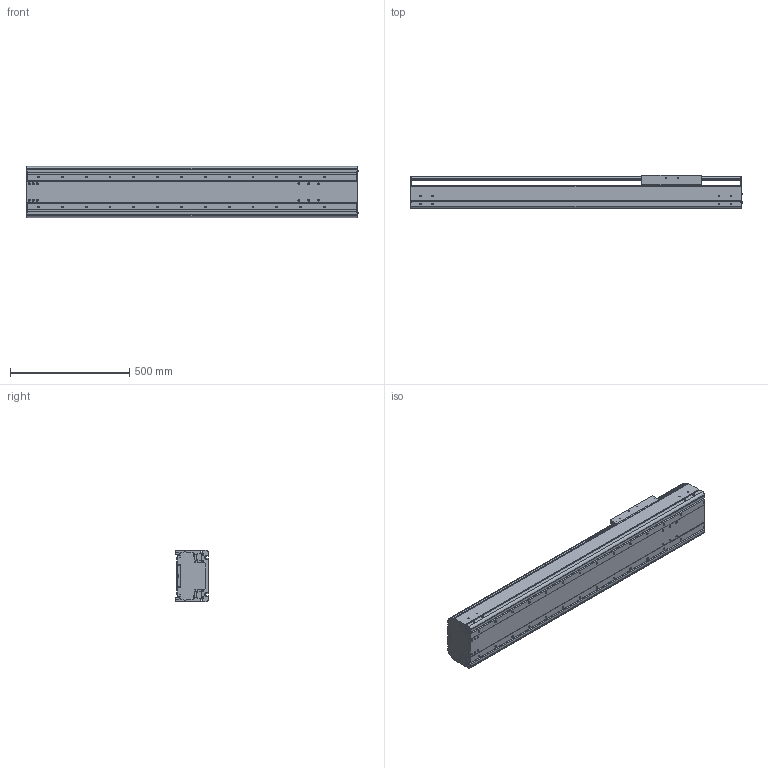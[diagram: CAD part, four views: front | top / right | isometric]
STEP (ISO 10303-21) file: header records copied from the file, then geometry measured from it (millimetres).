
FILE_DESCRIPTION((''),'2;1');
FILE_NAME('BE60J-ST-M_N-90_IGS_PRT','2017-06-18T',(' '),(''),'PRO/ENGINEER BY PARAMETRIC TECHNOLOGY CORPORATION, 2015030','PRO/ENGINEER BY PARAMETRIC TECHNOLOGY CORPORATION, 2015030','');
FILE_SCHEMA(('CONFIG_CONTROL_DESIGN'));
Length unit declared in the file: millimetre
Products named in the file (1): BE60J-ST-M_N-90_IGS_PRT
Bounding box: 1392.4 x 140 x 214 mm (x, y, z)
Volume: 10804340 mm3; surface area: 2966246.8 mm2
Topology: 2 solids, 112 shells, 1421 faces, 3982 edges, 2652 vertices
Faces by surface type: cylinder 726, plane 595, cone 52, sphere 24, torus 24
Entity records: 47741 total; most frequent: CARTESIAN_POINT 10604, DIRECTION 7760, ORIENTED_EDGE 7436, EDGE_CURVE 3934, AXIS2_PLACEMENT_3D 2878, VERTEX_POINT 2652, VECTOR 2004, LINE 2004
